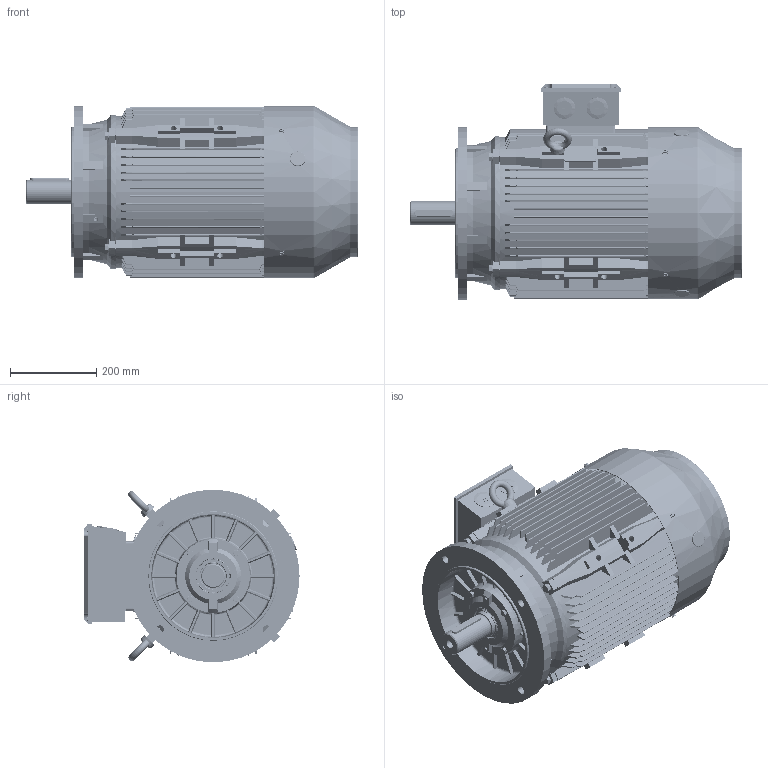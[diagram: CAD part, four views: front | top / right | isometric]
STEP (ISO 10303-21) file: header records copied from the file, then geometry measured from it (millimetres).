
FILE_DESCRIPTION (( 'STEP AP214' ), '1' );
FILE_NAME ('BCT4300.20I205.11.step', '2020-04-23T13:44:37', ( '' ), ( '' ), 'SwSTEP 2.0', 'SolidWorks 2019', '' );
FILE_SCHEMA (( 'AUTOMOTIVE_DESIGN' ));
Length unit declared in the file: millimetre
Products named in the file (1): BCT4300.20I205.11
Bounding box: 768.5 x 498 x 400 mm (x, y, z)
Volume: 15370713.3 mm3; surface area: 4158043.2 mm2
Topology: 55 solids, 55 shells, 8308 faces, 24082 edges, 15713 vertices
Faces by surface type: plane 3908, cylinder 3311, cone 365, torus 320, sphere 264, bspline 140
Entity records: 310079 total; most frequent: CARTESIAN_POINT 86966, ORIENTED_EDGE 47660, DIRECTION 45830, EDGE_CURVE 23830, AXIS2_PLACEMENT_3D 16107, VERTEX_POINT 15641, LINE 13616, VECTOR 13616
